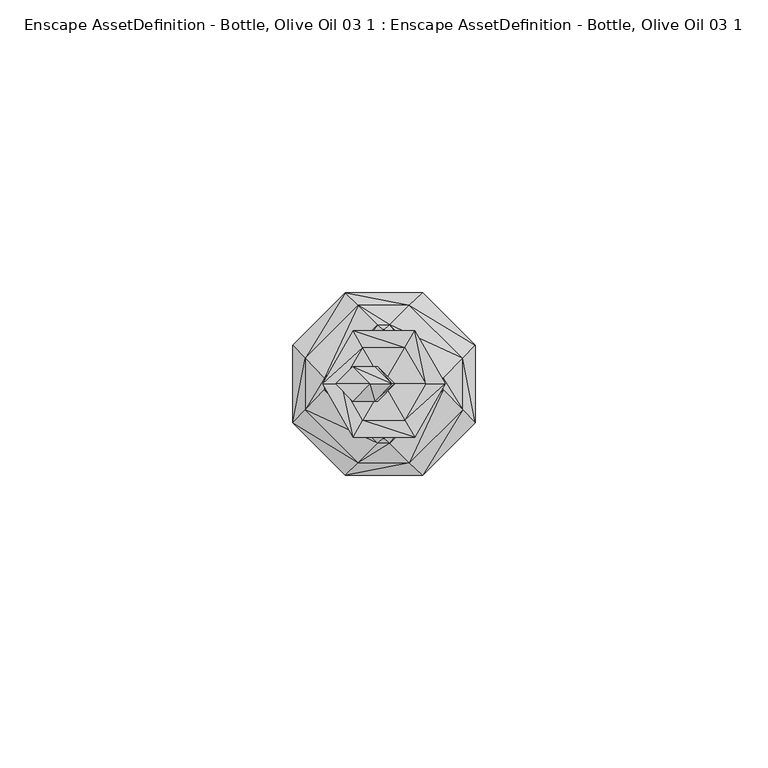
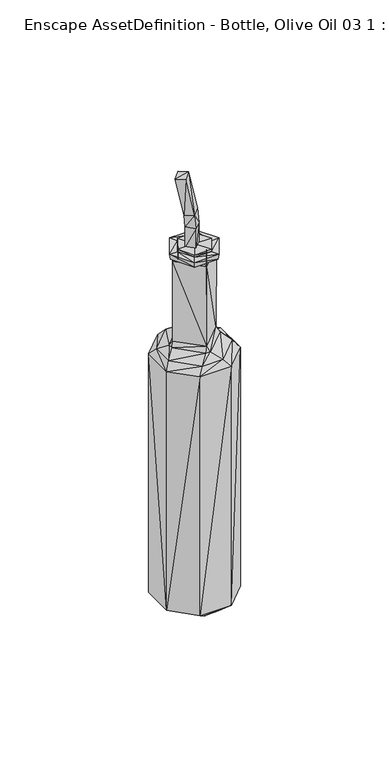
"""IFC4 building model written with IfcOpenShell, lengths in millimetres: geographic element geometry, Enscape AssetDefinition - Bottle, Olive Oil 03 1 : Enscape AssetDefinition - Bottle, Olive Oil 03 1."""

import ifcopenshell
import ifcopenshell.guid

model = None  # the IFC model being written
_history = None  # IfcOwnerHistory: only IFC2X3 demands one
_inside = {}  # id of a spatial element -> (the spatial element, [elements in it])
_under = {}  # id of a project, library or spatial element -> (it, [spatial elements below it])
_declared = {}  # id of a project -> (the project, [libraries it declares])
_typed = {}  # id of a type object -> (the type object, [elements of that type])
_made_of = {}  # id of a material, layer set ... -> (it, [elements and type objects made of it])


def new_model(schema):
    """Start an empty IFC model of exactly this schema.

    Asked for "IFC4X3", IfcOpenShell would pick the latest addendum, in which some entities
    have other attributes; the version numbers below select the first issue.
    IFC2X3 requires an IfcOwnerHistory on every rooted entity: one is made here for all.
    """
    global model, _history
    if schema == "IFC4X3":
        model = ifcopenshell.file(schema_version=(4, 3, 0, 0))
    else:
        model = ifcopenshell.file(schema=schema)
    _inside.clear()
    _under.clear()
    _declared.clear()
    _typed.clear()
    _made_of.clear()
    _history = None
    if model.schema == "IFC2X3":
        org = make("IfcOrganization", Name="unknown")
        user = make(
            "IfcPersonAndOrganization",
            ThePerson=make("IfcPerson", FamilyName="unknown"),
            TheOrganization=org,
        )
        app = make(
            "IfcApplication",
            ApplicationDeveloper=org,
            Version="unknown",
            ApplicationFullName="unknown",
            ApplicationIdentifier="unknown",
        )
        _history = make(
            "IfcOwnerHistory",
            OwningUser=user,
            OwningApplication=app,
            ChangeAction="ADDED",
            CreationDate=0,
        )
    return model


def make(cls, **values):
    """One entity of the class cls with the attributes given. An attribute that is None is left unset."""
    return model.create_entity(
        cls, **{name: value for name, value in values.items() if value is not None}
    )


def rooted(cls, **values):
    """An entity with a GlobalId (a new one), such as an element, a storey or a relation."""
    return make(cls, GlobalId=ifcopenshell.guid.new(), OwnerHistory=_history, **values)


def si_unit(unit_type, name, prefix=None):
    """IfcSIUnit, for example si_unit("LENGTHUNIT", "METRE", prefix="MILLI")."""
    return make("IfcSIUnit", UnitType=unit_type, Prefix=prefix, Name=name)


def assignment(units):
    """IfcUnitAssignment: the units of a project."""
    return None if units is None else make("IfcUnitAssignment", Units=units)


def point(xyz):
    """IfcCartesianPoint."""
    return None if xyz is None else make("IfcCartesianPoint", Coordinates=xyz)


def direction(xyz):
    """IfcDirection."""
    return None if xyz is None else make("IfcDirection", DirectionRatios=xyz)


def frame(location, z_axis=None, x_axis=None):
    """IfcAxis2Placement3D, a coordinate frame: its origin and axes. An axis left out is left unset."""
    return make(
        "IfcAxis2Placement3D",
        Location=point(location),
        Axis=direction(z_axis),
        RefDirection=direction(x_axis),
    )


def origin():
    """The frame at (0, 0, 0) with its axes left unset."""
    return frame((0.0, 0.0, 0.0))


def place(relative_to, where):
    """IfcLocalPlacement: puts the frame where relative to a parent placement (None: the world)."""
    return make(
        "IfcLocalPlacement", PlacementRelTo=relative_to, RelativePlacement=where
    )


def context(
    kind, dimensions, precision=None, world=None, true_north=None, identifier=None
):
    """IfcGeometricRepresentationContext, for example the 3D "Model" context."""
    return make(
        "IfcGeometricRepresentationContext",
        ContextIdentifier=identifier,
        ContextType=kind,
        CoordinateSpaceDimension=dimensions,
        Precision=precision,
        WorldCoordinateSystem=world,
        TrueNorth=true_north,
    )


def project(units=None, contexts=None):
    """IfcProject with its units and contexts."""
    return rooted(
        "IfcProject",
        Name="project",
        RepresentationContexts=contexts,
        UnitsInContext=assignment(units),
    )


def spatial(cls, under=None, at=None, **own):
    """A site, building, storey or space (cls), placed at a placement, below another one or the project."""
    s = rooted(cls, ObjectPlacement=at, **own)
    if under is not None:
        _under.setdefault(under.id(), (under, []))[1].append(s)
    return s


def faces_of(points, faces, orient=None, outer=None):
    """IfcFace entities. A face is a list of loops; a loop is a list of indices into points, from 0.

    orient and outer hold one flag for each loop. By default every Orientation is true, the
    first loop of a face is its IfcFaceOuterBound and the others are IfcFaceBound.
    """
    made = []
    for i, loops in enumerate(faces):
        bounds = []
        for j, loop in enumerate(loops):
            is_outer = j == 0 if outer is None else outer[i][j]
            bounds.append(
                make(
                    "IfcFaceOuterBound" if is_outer else "IfcFaceBound",
                    Bound=make("IfcPolyLoop", Polygon=[points[k] for k in loop]),
                    Orientation=True if orient is None else orient[i][j],
                )
            )
        made.append(make("IfcFace", Bounds=bounds))
    return made


def faceted_brep(points, faces, orient=None, outer=None, voids=None):
    """IfcFacetedBrep: a solid bounded by flat faces; with voids (closed shells), ...WithVoids."""
    shared = [point(p) for p in points]
    hull = make("IfcClosedShell", CfsFaces=faces_of(shared, faces, orient, outer))
    if voids is None:
        return make("IfcFacetedBrep", Outer=hull)
    return make(
        "IfcFacetedBrepWithVoids",
        Outer=hull,
        Voids=[
            make(cls, CfsFaces=faces_of(shared, fs, o, b)) for cls, fs, o, b in voids
        ],
    )


def shape(context_of_items, identifier, shape_type, items):
    """IfcShapeRepresentation: the items that make up one representation, for example the "Body"."""
    return make(
        "IfcShapeRepresentation",
        ContextOfItems=context_of_items,
        RepresentationIdentifier=identifier,
        RepresentationType=shape_type,
        Items=items,
    )


def source(mapping_origin, context_of_items, identifier, shape_type, items):
    """IfcRepresentationMap: a shape defined once, which mapped items show again and again."""
    return make(
        "IfcRepresentationMap",
        MappingOrigin=mapping_origin,
        MappedRepresentation=shape(context_of_items, identifier, shape_type, items),
    )


def transform(
    local_origin,
    x_axis=None,
    y_axis=None,
    z_axis=None,
    scale=None,
    scale2=None,
    scale3=None,
    uniform=True,
):
    """IfcCartesianTransformationOperator3D, or its non-uniform kind. x_axis, y_axis, z_axis: its Axis1, 2, 3."""
    if uniform:
        return make(
            "IfcCartesianTransformationOperator3D",
            Axis1=direction(x_axis),
            Axis2=direction(y_axis),
            LocalOrigin=point(local_origin),
            Scale=scale,
            Axis3=direction(z_axis),
        )
    return make(
        "IfcCartesianTransformationOperator3DnonUniform",
        Axis1=direction(x_axis),
        Axis2=direction(y_axis),
        LocalOrigin=point(local_origin),
        Scale=scale,
        Axis3=direction(z_axis),
        Scale2=scale2,
        Scale3=scale3,
    )


def mapped(mapping_source, mapping_target):
    """IfcMappedItem: shows the shape of a source again, moved by a transform."""
    return make(
        "IfcMappedItem", MappingSource=mapping_source, MappingTarget=mapping_target
    )


def made_of(thing, what):
    """Note that an element or type object is made of a material, layer set ...; save() writes the relation."""
    if what is not None:
        _made_of.setdefault(what.id(), (what, []))[1].append(thing)
    return thing


def element(
    cls,
    number,
    at=None,
    inside=None,
    cuts=None,
    type_object=None,
    material=None,
    context=None,
    identifier="Body",
    shape_type=None,
    held_by="IfcProductDefinitionShape",
    body=None,
    shapes=None,
    **own,
):
    """One element of the class cls, such as IfcWall. Its Tag is "e" and its number.

    at: its placement. inside: the storey or other place that contains it. cuts: it is an
    opening in that element (IfcRelVoidsElement). A single representation is given by context,
    identifier, shape_type and body (its items); several are given by shapes. held_by: the class
    of the entity that holds the representations. save() writes the other relations.
    """
    e = rooted(cls, Tag="e%d" % number, ObjectPlacement=at, **own)
    if body is not None:
        shapes = [shape(context, identifier, shape_type, body)]
    if shapes is not None:
        e.Representation = make(held_by, Representations=shapes)
    if inside is not None:
        _inside.setdefault(inside.id(), (inside, []))[1].append(e)
    if cuts is not None:
        rooted(
            "IfcRelVoidsElement", RelatingBuildingElement=cuts, RelatedOpeningElement=e
        )
    if type_object is not None:
        _typed.setdefault(type_object.id(), (type_object, []))[1].append(e)
    return made_of(e, material)


def aggregate(whole, parts):
    """IfcRelAggregates: a whole, such as a stair, and the parts it consists of."""
    return rooted("IfcRelAggregates", RelatingObject=whole, RelatedObjects=parts)


def save(model, path):
    """Write the relations noted so far, then the file.

    IfcRelAggregates (storeys below a building ...), IfcRelContainedInSpatialStructure (elements
    in a storey), IfcRelDefinesByType, IfcRelAssociatesMaterial and IfcRelDeclares: one each for
    every whole, place, type object, material and project.
    """
    for whole, parts in _under.values():
        aggregate(whole, parts)
    for where, things in _inside.values():
        rooted(
            "IfcRelContainedInSpatialStructure",
            RelatedElements=things,
            RelatingStructure=where,
        )
    for kind, things in _typed.values():
        rooted("IfcRelDefinesByType", RelatedObjects=things, RelatingType=kind)
    for what, things in _made_of.values():
        rooted("IfcRelAssociatesMaterial", RelatedObjects=things, RelatingMaterial=what)
    for by, libraries in _declared.values():
        rooted("IfcRelDeclares", RelatingContext=by, RelatedDefinitions=libraries)
    model.write(path)


def enscape_assetdefinition_bottle_olive_oil_03_1_enscape_c004ce61(model_context):
    return source(origin(), model_context, "Body", "Brep", [
        faceted_brep([(9.1690002, 0.0, 118.1820035), (1.011, -10.1570003, 116.1549985), (10.1570003, -1.011, 116.1549985), (0.0, -9.1690002, 118.1820035), (4.3720002, -13.4800002, 113.5530025), (-4.3720002, -13.4800002, 113.5530025), (-1.011, -10.1570003, 116.1549985), (13.4800002, -4.3720002, 113.5530025), (10.1570003, 1.011, 116.1549985), (6.6300002, -15.6089999, 110.8020023), (-6.6300002, -15.6089999, 110.8020023), (-13.4800002, -4.3720002, 113.5530025), (-15.6089999, -6.6300002, 110.8020023), (-10.1570003, -1.011, 116.1549985), (-13.4800002, 4.3720002, 113.5530025), (-10.1570003, 1.011, 116.1549985), (-15.6089999, 6.6300002, 110.8020023), (-15.6039996, -6.635, 4.011), (-6.635, -15.6039996, 4.011), (-11.593, -2.478, 0.0), (-15.6039996, 6.635, 4.011), (-6.6300002, 15.6089999, 110.8020023), (-6.635, 15.6039996, 4.011), (-2.478, 11.593, 0.0), (-11.593, 2.478, 0.0), (-2.478, -11.593, 0.0), (11.593, -2.478, 0.0), (6.635, 15.6039996, 4.011), (2.478, 11.593, 0.0), (6.6300002, 15.6089999, 110.8020023), (11.593, 2.478, 0.0), (15.6039996, 6.635, 4.011), (15.6039996, -6.635, 4.011), (2.478, -11.593, 0.0), (15.6089999, 6.6300002, 110.8020023), (4.3720002, 13.4800002, 113.5530025), (15.6089999, -6.6300002, 110.8020023), (13.4800002, 4.3720002, 113.5530025), (6.635, -15.6039996, 4.011), (1.011, 10.1570003, 116.1549985), (0.0, 9.1690002, 118.1820035), (-4.3720002, 13.4800002, 113.5530025), (-1.011, 10.1570003, 116.1549985), (9.3609998, 0.0, 154.0309936), (0.0, -9.3609998, 154.0309936), (0.0, 0.0, 154.0309936), (0.0, 9.3609998, 154.0309936), (-9.3609998, 0.0, 154.0309936), (-9.1690002, 0.0, 118.1820035)], [[[0, 1, 2]], [[3, 1, 0]], [[1, 4, 2]], [[1, 5, 4]], [[6, 5, 1]], [[3, 6, 1]], [[2, 4, 7]], [[7, 8, 2]], [[0, 2, 8]], [[4, 9, 7]], [[4, 10, 9]], [[5, 10, 4]], [[5, 6, 11]], [[12, 5, 11]], [[10, 5, 12]], [[6, 3, 13]], [[11, 6, 13]], [[11, 14, 12]], [[11, 15, 14]], [[13, 15, 11]], [[12, 14, 16]], [[17, 10, 12]], [[12, 16, 17]], [[10, 18, 9]], [[18, 10, 17]], [[17, 19, 18]], [[17, 16, 20]], [[17, 20, 19]], [[14, 21, 16]], [[16, 22, 20]], [[21, 22, 16]], [[20, 23, 24]], [[22, 23, 20]], [[19, 20, 24]], [[18, 19, 25]], [[19, 26, 25]], [[24, 26, 19]], [[23, 26, 24]], [[27, 23, 22]], [[28, 23, 27]], [[28, 26, 23]], [[29, 22, 21]], [[27, 22, 29]], [[27, 30, 28]], [[31, 30, 27]], [[27, 29, 31]], [[26, 28, 30]], [[31, 26, 30]], [[32, 26, 31]], [[25, 26, 33]], [[32, 33, 26]], [[31, 34, 32]], [[31, 29, 34]], [[29, 35, 34]], [[29, 21, 35]], [[32, 34, 36]], [[34, 37, 36]], [[34, 35, 37]], [[36, 38, 32]], [[38, 33, 32]], [[38, 25, 33]], [[9, 38, 36]], [[9, 18, 38]], [[18, 25, 38]], [[7, 9, 36]], [[36, 37, 7]], [[37, 8, 7]], [[37, 39, 8]], [[35, 39, 37]], [[8, 39, 0]], [[0, 39, 40]], [[39, 41, 42]], [[35, 41, 39]], [[39, 42, 40]], [[40, 43, 0]], [[44, 0, 43]], [[3, 0, 44]], [[44, 43, 45]], [[46, 43, 40]], [[45, 43, 46]], [[45, 47, 44]], [[44, 47, 3]], [[13, 3, 48]], [[3, 47, 48]], [[47, 46, 48]], [[46, 47, 45]], [[48, 46, 40]], [[13, 48, 15]], [[48, 42, 15]], [[40, 42, 48]], [[15, 41, 14]], [[42, 41, 15]], [[35, 21, 41]], [[41, 21, 14]]]),
        faceted_brep([(3.512, 6.083, 154.1399956), (7.0239999, 0.0, 155.0759971), (7.0239999, 0.0, 154.1399956), (3.512, 6.083, 155.0759971), (3.512, -6.083, 155.0759971), (10.0790001, 0.0, 155.0759971), (5.0400002, -8.7289996, 155.0759971), (-3.512, 6.083, 154.1399956), (-3.512, 6.083, 155.0759971), (5.0400002, 8.7289996, 155.0759971), (10.4799997, 0.0, 157.4970037), (5.2399999, -9.0760002, 157.4970037), (-5.0400002, -8.7289996, 155.0759971), (-5.2399999, -9.0760002, 157.4970037), (-3.5850001, -6.209, 157.4970037), (3.5850001, -6.209, 157.4970037), (5.2399999, 9.0760002, 157.4970037), (7.1689999, 0.0, 157.4970037), (-3.5850001, -6.209, 158.5189998), (3.5850001, -6.209, 158.5189998), (-7.1689999, 0.0, 157.4970037), (-7.1689999, 0.0, 158.5189998), (0.0, 0.0, 158.5189998), (7.1689999, 0.0, 158.5189998), (3.5850001, 6.209, 157.4970037), (3.5850001, 6.209, 158.5189998), (-3.5850001, 6.209, 158.5189998), (-3.5850001, 6.209, 157.4970037), (-10.4799997, 0.0, 157.4970037), (-5.2399999, 9.0760002, 157.4970037), (-5.0400002, 8.7289996, 155.0759971), (-10.0790001, 0.0, 155.0759971), (-7.0239999, 0.0, 155.0759971), (-3.512, -6.083, 155.0759971), (-7.0239999, 0.0, 154.1399956), (-3.512, -6.083, 154.1399956), (3.512, -6.083, 154.1399956), (-2.565, -4.4430001, 154.1399956), (2.565, -4.4430001, 154.1399956), (-5.1310002, 0.0, 154.1399956), (-2.565, -4.4430001, 137.586996), (2.565, -4.4430001, 137.586996), (5.1310002, 0.0, 137.586996), (5.1310002, 0.0, 154.1399956), (0.0, 0.0, 137.586996), (-5.1310002, 0.0, 137.586996), (-2.565, 4.4430001, 154.1399956), (2.565, 4.4430001, 154.1399956), (-2.565, 4.4430001, 137.586996), (2.565, 4.4430001, 137.586996)], [[[0, 1, 2]], [[3, 1, 0]], [[1, 4, 2]], [[3, 5, 1]], [[1, 6, 4]], [[5, 6, 1]], [[7, 3, 0]], [[8, 3, 7]], [[9, 5, 3]], [[8, 9, 3]], [[9, 10, 5]], [[5, 11, 6]], [[10, 11, 5]], [[6, 12, 4]], [[6, 13, 12]], [[11, 13, 6]], [[11, 14, 13]], [[15, 14, 11]], [[10, 15, 11]], [[16, 10, 9]], [[16, 17, 10]], [[17, 15, 10]], [[15, 18, 14]], [[19, 18, 15]], [[17, 19, 15]], [[14, 20, 13]], [[14, 21, 20]], [[18, 21, 14]], [[18, 22, 21]], [[19, 22, 18]], [[23, 19, 17]], [[23, 22, 19]], [[24, 17, 16]], [[24, 23, 17]], [[25, 23, 24]], [[25, 22, 23]], [[26, 22, 25]], [[21, 22, 26]], [[21, 26, 20]], [[26, 25, 27]], [[20, 26, 27]], [[20, 27, 28]], [[13, 20, 28]], [[27, 24, 29]], [[28, 27, 29]], [[27, 25, 24]], [[29, 24, 16]], [[29, 16, 30]], [[31, 29, 30]], [[28, 29, 31]], [[12, 28, 31]], [[13, 28, 12]], [[31, 30, 32]], [[33, 31, 32]], [[12, 31, 33]], [[30, 9, 8]], [[32, 30, 8]], [[30, 16, 9]], [[32, 8, 34]], [[35, 32, 34]], [[33, 32, 35]], [[36, 33, 35]], [[4, 33, 36]], [[4, 12, 33]], [[35, 34, 37]], [[38, 35, 37]], [[36, 35, 38]], [[34, 8, 7]], [[34, 7, 39]], [[37, 34, 39]], [[37, 39, 40]], [[41, 37, 40]], [[38, 37, 41]], [[42, 38, 41]], [[43, 38, 42]], [[43, 36, 38]], [[41, 40, 44]], [[42, 41, 44]], [[40, 39, 45]], [[40, 45, 44]], [[39, 46, 45]], [[39, 7, 46]], [[7, 0, 46]], [[46, 47, 48]], [[45, 46, 48]], [[46, 0, 47]], [[45, 48, 44]], [[49, 42, 44]], [[48, 49, 44]], [[49, 43, 42]], [[47, 43, 49]], [[48, 47, 49]], [[47, 2, 43]], [[2, 36, 43]], [[0, 2, 47]], [[2, 4, 36]]]),
        faceted_brep([(-2.419, 0.0, 191.6279942), (-8.2250005, -0.012, 190.3759986), (-5.3229998, -2.97, 191.0019964), (-5.3190002, 2.97, 191.0029948), (-4.47, -0.012, 172.9719937), (-1.5679999, 2.97, 173.5980064), (-1.5679999, -2.97, 173.5980064), (1.336, -0.012, 174.2240041), (-4.061, -0.012, 167.5399989), (-1.092, 2.97, 167.5399989), (-1.092, -2.97, 167.5399989), (1.878, -0.012, 167.5399989), (-1.092, 2.97, 158.5189998), (-4.061, -0.012, 158.5189998), (-1.092, -2.97, 158.5189998), (1.878, -0.012, 158.5189998)], [[[0, 1, 2]], [[3, 1, 0]], [[4, 2, 1]], [[1, 5, 4]], [[3, 5, 1]], [[2, 6, 0]], [[6, 2, 4]], [[7, 3, 0]], [[0, 6, 7]], [[5, 3, 7]], [[5, 8, 4]], [[9, 8, 5]], [[7, 9, 5]], [[8, 6, 4]], [[10, 6, 8]], [[11, 6, 10]], [[7, 6, 11]], [[11, 9, 7]], [[11, 12, 9]], [[13, 9, 12]], [[8, 9, 13]], [[8, 13, 10]], [[14, 11, 10]], [[10, 13, 14]], [[15, 12, 11]], [[15, 11, 14]], [[15, 13, 12]], [[15, 14, 13]]]),
    ])


if __name__ == "__main__":
    model = new_model("IFC4")
    model_context = context("Model", 3, world=origin())
    ifc_project = project(units=[si_unit("LENGTHUNIT", "METRE", prefix="MILLI")], contexts=[model_context])
    site = spatial("IfcSite", under=ifc_project)
    building = spatial("IfcBuilding", under=site)
    placement = place(None, origin())
    enscape_assetdefinition_bottle_olive_oil_03_1_enscape_shape = enscape_assetdefinition_bottle_olive_oil_03_1_enscape_c004ce61(model_context)
    element("IfcGeographicElement", 1, ObjectType="Enscape AssetDefinition - Bottle, Olive Oil 03 1 : Enscape AssetDefinition - Bottle, Olive Oil 03 1", at=placement, inside=building, context=model_context, shape_type="MappedRepresentation", body=[
        mapped(enscape_assetdefinition_bottle_olive_oil_03_1_enscape_shape, transform((0.0, 0.0, 0.0), x_axis=(1.0, 0.0, 0.0), y_axis=(0.0, 1.0, 0.0), z_axis=(0.0, 0.0, 1.0))),
    ])
    save(model, "model.ifc")
